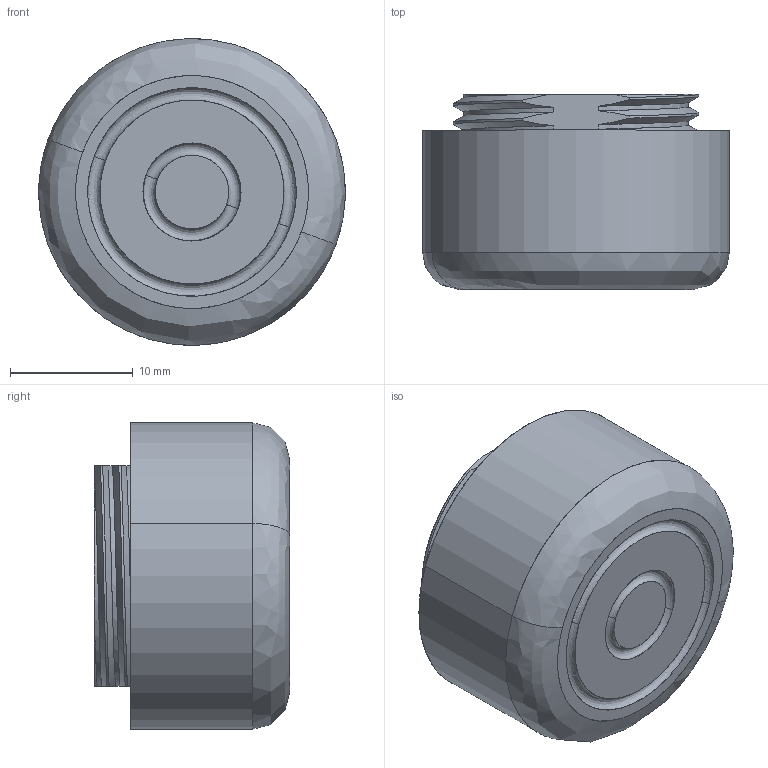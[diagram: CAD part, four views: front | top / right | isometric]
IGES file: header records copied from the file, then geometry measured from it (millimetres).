
Start section: SolidWorks IGES file using analytic representation for surfaces
Bounding box: 25 x 15.93 x 25 mm (x, y, z)
Surface area: 4761.2 mm2 (no closed solid volume)
Topology: 0 solids, 0 shells, 204 faces, 2404 edges, 2400 vertices
Faces by surface type: bspline 123, revolution 81
